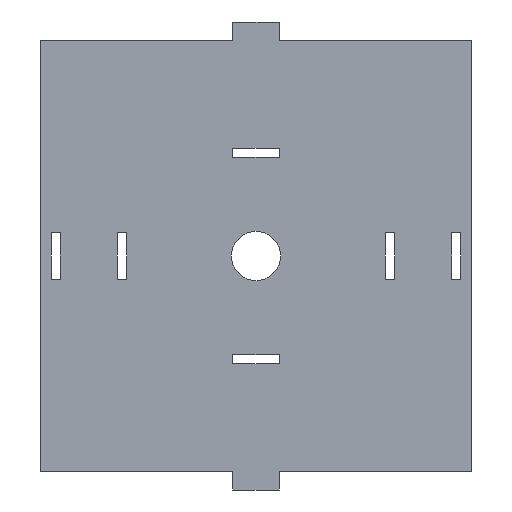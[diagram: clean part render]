
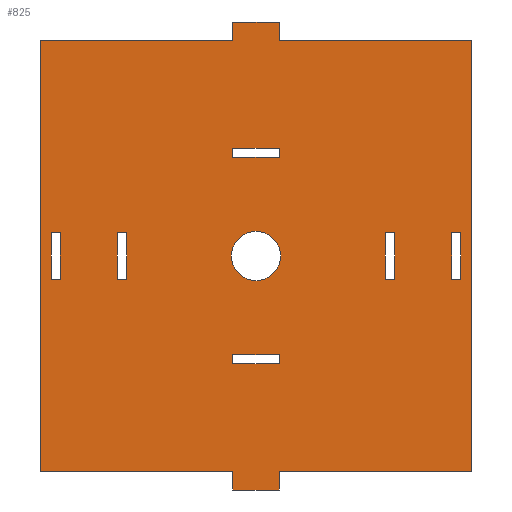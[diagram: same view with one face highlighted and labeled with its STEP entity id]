
A CAD part, front view. The second image highlights one B-rep face of the part: STEP entity #825.
In plain terms, the highlighted planar face has unit normal (0, -1, 0).
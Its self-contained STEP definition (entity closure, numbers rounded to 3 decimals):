
#22=FACE_BOUND('',#117,.T.);
#23=FACE_BOUND('',#118,.T.);
#24=FACE_BOUND('',#119,.T.);
#25=FACE_BOUND('',#120,.T.);
#26=FACE_BOUND('',#121,.T.);
#27=FACE_BOUND('',#122,.T.);
#28=FACE_BOUND('',#123,.T.);
#30=CIRCLE('',#866,8.);
#70=FACE_OUTER_BOUND('',#116,.T.);
#116=EDGE_LOOP('',(#712,#713,#714,#715,#716,#717,#718,#719,#720,#721,#722,
#723));
#117=EDGE_LOOP('',(#724,#725,#726,#727));
#118=EDGE_LOOP('',(#728,#729,#730,#731));
#119=EDGE_LOOP('',(#732,#733,#734,#735));
#120=EDGE_LOOP('',(#736,#737,#738,#739));
#121=EDGE_LOOP('',(#740,#741,#742,#743));
#122=EDGE_LOOP('',(#744,#745,#746,#747));
#123=EDGE_LOOP('',(#748));
#126=LINE('',#1082,#235);
#129=LINE('',#1088,#238);
#132=LINE('',#1094,#241);
#135=LINE('',#1098,#244);
#138=LINE('',#1106,#247);
#141=LINE('',#1112,#250);
#144=LINE('',#1118,#253);
#147=LINE('',#1122,#256);
#150=LINE('',#1130,#259);
#153=LINE('',#1136,#262);
#156=LINE('',#1142,#265);
#159=LINE('',#1146,#268);
#162=LINE('',#1154,#271);
#165=LINE('',#1160,#274);
#168=LINE('',#1166,#277);
#171=LINE('',#1170,#280);
#174=LINE('',#1178,#283);
#177=LINE('',#1184,#286);
#180=LINE('',#1190,#289);
#183=LINE('',#1194,#292);
#186=LINE('',#1202,#295);
#189=LINE('',#1208,#298);
#192=LINE('',#1214,#301);
#195=LINE('',#1218,#304);
#197=LINE('',#1228,#306);
#201=LINE('',#1236,#310);
#204=LINE('',#1242,#313);
#207=LINE('',#1248,#316);
#210=LINE('',#1254,#319);
#213=LINE('',#1260,#322);
#216=LINE('',#1266,#325);
#219=LINE('',#1272,#328);
#222=LINE('',#1278,#331);
#225=LINE('',#1284,#334);
#228=LINE('',#1290,#337);
#231=LINE('',#1295,#340);
#235=VECTOR('',#887,10.);
#238=VECTOR('',#892,10.);
#241=VECTOR('',#897,10.);
#244=VECTOR('',#902,10.);
#247=VECTOR('',#907,10.);
#250=VECTOR('',#912,10.);
#253=VECTOR('',#917,10.);
#256=VECTOR('',#922,10.);
#259=VECTOR('',#927,10.);
#262=VECTOR('',#932,10.);
#265=VECTOR('',#937,10.);
#268=VECTOR('',#942,10.);
#271=VECTOR('',#947,10.);
#274=VECTOR('',#952,10.);
#277=VECTOR('',#957,10.);
#280=VECTOR('',#962,10.);
#283=VECTOR('',#967,10.);
#286=VECTOR('',#972,10.);
#289=VECTOR('',#977,10.);
#292=VECTOR('',#982,10.);
#295=VECTOR('',#987,10.);
#298=VECTOR('',#992,10.);
#301=VECTOR('',#997,10.);
#304=VECTOR('',#1002,10.);
#306=VECTOR('',#1012,10.);
#310=VECTOR('',#1018,10.);
#313=VECTOR('',#1023,10.);
#316=VECTOR('',#1028,10.);
#319=VECTOR('',#1033,10.);
#322=VECTOR('',#1038,10.);
#325=VECTOR('',#1043,10.);
#328=VECTOR('',#1048,10.);
#331=VECTOR('',#1053,10.);
#334=VECTOR('',#1058,10.);
#337=VECTOR('',#1063,10.);
#340=VECTOR('',#1068,10.);
#344=VERTEX_POINT('',#1079);
#345=VERTEX_POINT('',#1081);
#347=VERTEX_POINT('',#1087);
#349=VERTEX_POINT('',#1093);
#352=VERTEX_POINT('',#1103);
#353=VERTEX_POINT('',#1105);
#355=VERTEX_POINT('',#1111);
#357=VERTEX_POINT('',#1117);
#360=VERTEX_POINT('',#1127);
#361=VERTEX_POINT('',#1129);
#363=VERTEX_POINT('',#1135);
#365=VERTEX_POINT('',#1141);
#368=VERTEX_POINT('',#1151);
#369=VERTEX_POINT('',#1153);
#371=VERTEX_POINT('',#1159);
#373=VERTEX_POINT('',#1165);
#376=VERTEX_POINT('',#1175);
#377=VERTEX_POINT('',#1177);
#379=VERTEX_POINT('',#1183);
#381=VERTEX_POINT('',#1189);
#384=VERTEX_POINT('',#1199);
#385=VERTEX_POINT('',#1201);
#387=VERTEX_POINT('',#1207);
#389=VERTEX_POINT('',#1213);
#391=VERTEX_POINT('',#1222);
#392=VERTEX_POINT('',#1226);
#393=VERTEX_POINT('',#1227);
#396=VERTEX_POINT('',#1235);
#398=VERTEX_POINT('',#1241);
#400=VERTEX_POINT('',#1247);
#402=VERTEX_POINT('',#1253);
#404=VERTEX_POINT('',#1259);
#406=VERTEX_POINT('',#1265);
#408=VERTEX_POINT('',#1271);
#410=VERTEX_POINT('',#1277);
#412=VERTEX_POINT('',#1283);
#414=VERTEX_POINT('',#1289);
#418=EDGE_CURVE('',#345,#344,#126,.T.);
#421=EDGE_CURVE('',#347,#345,#129,.T.);
#424=EDGE_CURVE('',#349,#347,#132,.T.);
#427=EDGE_CURVE('',#344,#349,#135,.T.);
#430=EDGE_CURVE('',#353,#352,#138,.T.);
#433=EDGE_CURVE('',#355,#353,#141,.T.);
#436=EDGE_CURVE('',#357,#355,#144,.T.);
#439=EDGE_CURVE('',#352,#357,#147,.T.);
#442=EDGE_CURVE('',#361,#360,#150,.T.);
#445=EDGE_CURVE('',#363,#361,#153,.T.);
#448=EDGE_CURVE('',#365,#363,#156,.T.);
#451=EDGE_CURVE('',#360,#365,#159,.T.);
#454=EDGE_CURVE('',#369,#368,#162,.T.);
#457=EDGE_CURVE('',#371,#369,#165,.T.);
#460=EDGE_CURVE('',#373,#371,#168,.T.);
#463=EDGE_CURVE('',#368,#373,#171,.T.);
#466=EDGE_CURVE('',#377,#376,#174,.T.);
#469=EDGE_CURVE('',#379,#377,#177,.T.);
#472=EDGE_CURVE('',#381,#379,#180,.T.);
#475=EDGE_CURVE('',#376,#381,#183,.T.);
#478=EDGE_CURVE('',#385,#384,#186,.T.);
#481=EDGE_CURVE('',#387,#385,#189,.T.);
#484=EDGE_CURVE('',#389,#387,#192,.T.);
#487=EDGE_CURVE('',#384,#389,#195,.T.);
#490=EDGE_CURVE('',#391,#391,#30,.T.);
#491=EDGE_CURVE('',#392,#393,#197,.T.);
#495=EDGE_CURVE('',#393,#396,#201,.T.);
#498=EDGE_CURVE('',#396,#398,#204,.T.);
#501=EDGE_CURVE('',#398,#400,#207,.T.);
#504=EDGE_CURVE('',#400,#402,#210,.T.);
#507=EDGE_CURVE('',#404,#402,#213,.T.);
#510=EDGE_CURVE('',#406,#404,#216,.T.);
#513=EDGE_CURVE('',#408,#406,#219,.T.);
#516=EDGE_CURVE('',#410,#408,#222,.T.);
#519=EDGE_CURVE('',#412,#410,#225,.T.);
#522=EDGE_CURVE('',#414,#412,#228,.T.);
#525=EDGE_CURVE('',#392,#414,#231,.T.);
#712=ORIENTED_EDGE('',*,*,#525,.F.);
#713=ORIENTED_EDGE('',*,*,#491,.T.);
#714=ORIENTED_EDGE('',*,*,#495,.T.);
#715=ORIENTED_EDGE('',*,*,#498,.T.);
#716=ORIENTED_EDGE('',*,*,#501,.T.);
#717=ORIENTED_EDGE('',*,*,#504,.T.);
#718=ORIENTED_EDGE('',*,*,#507,.F.);
#719=ORIENTED_EDGE('',*,*,#510,.F.);
#720=ORIENTED_EDGE('',*,*,#513,.F.);
#721=ORIENTED_EDGE('',*,*,#516,.F.);
#722=ORIENTED_EDGE('',*,*,#519,.F.);
#723=ORIENTED_EDGE('',*,*,#522,.F.);
#724=ORIENTED_EDGE('',*,*,#424,.T.);
#725=ORIENTED_EDGE('',*,*,#421,.T.);
#726=ORIENTED_EDGE('',*,*,#418,.T.);
#727=ORIENTED_EDGE('',*,*,#427,.T.);
#728=ORIENTED_EDGE('',*,*,#436,.T.);
#729=ORIENTED_EDGE('',*,*,#433,.T.);
#730=ORIENTED_EDGE('',*,*,#430,.T.);
#731=ORIENTED_EDGE('',*,*,#439,.T.);
#732=ORIENTED_EDGE('',*,*,#448,.T.);
#733=ORIENTED_EDGE('',*,*,#445,.T.);
#734=ORIENTED_EDGE('',*,*,#442,.T.);
#735=ORIENTED_EDGE('',*,*,#451,.T.);
#736=ORIENTED_EDGE('',*,*,#460,.T.);
#737=ORIENTED_EDGE('',*,*,#457,.T.);
#738=ORIENTED_EDGE('',*,*,#454,.T.);
#739=ORIENTED_EDGE('',*,*,#463,.T.);
#740=ORIENTED_EDGE('',*,*,#472,.T.);
#741=ORIENTED_EDGE('',*,*,#469,.T.);
#742=ORIENTED_EDGE('',*,*,#466,.T.);
#743=ORIENTED_EDGE('',*,*,#475,.T.);
#744=ORIENTED_EDGE('',*,*,#484,.T.);
#745=ORIENTED_EDGE('',*,*,#481,.T.);
#746=ORIENTED_EDGE('',*,*,#478,.T.);
#747=ORIENTED_EDGE('',*,*,#487,.T.);
#748=ORIENTED_EDGE('',*,*,#490,.F.);
#786=PLANE('',#880);
#825=ADVANCED_FACE('',(#70,#22,#23,#24,#25,#26,#27,#28),#786,.F.);
#866=AXIS2_PLACEMENT_3D('',#1224,#1008,#1009);
#880=AXIS2_PLACEMENT_3D('',#1298,#1072,#1073);
#887=DIRECTION('',(1.,0.,0.));
#892=DIRECTION('',(0.,0.,1.));
#897=DIRECTION('',(-1.,0.,0.));
#902=DIRECTION('',(0.,0.,-1.));
#907=DIRECTION('',(1.,0.,0.));
#912=DIRECTION('',(0.,0.,1.));
#917=DIRECTION('',(-1.,0.,0.));
#922=DIRECTION('',(0.,0.,-1.));
#927=DIRECTION('',(1.,0.,0.));
#932=DIRECTION('',(0.,0.,1.));
#937=DIRECTION('',(-1.,0.,0.));
#942=DIRECTION('',(0.,0.,-1.));
#947=DIRECTION('',(1.,0.,0.));
#952=DIRECTION('',(0.,0.,1.));
#957=DIRECTION('',(-1.,0.,0.));
#962=DIRECTION('',(0.,0.,-1.));
#967=DIRECTION('',(1.,0.,0.));
#972=DIRECTION('',(0.,0.,1.));
#977=DIRECTION('',(-1.,0.,0.));
#982=DIRECTION('',(0.,0.,-1.));
#987=DIRECTION('',(1.,0.,0.));
#992=DIRECTION('',(0.,0.,1.));
#997=DIRECTION('',(-1.,0.,0.));
#1002=DIRECTION('',(0.,0.,-1.));
#1008=DIRECTION('center_axis',(0.,-1.,0.));
#1009=DIRECTION('ref_axis',(1.,0.,0.));
#1012=DIRECTION('',(1.,0.,0.));
#1018=DIRECTION('',(0.,0.,-1.));
#1023=DIRECTION('',(1.,0.,0.));
#1028=DIRECTION('',(0.,0.,1.));
#1033=DIRECTION('',(1.,0.,0.));
#1038=DIRECTION('',(0.,0.,-1.));
#1043=DIRECTION('',(1.,0.,0.));
#1048=DIRECTION('',(0.,0.,-1.));
#1053=DIRECTION('',(1.,0.,0.));
#1058=DIRECTION('',(0.,0.,1.));
#1063=DIRECTION('',(1.,0.,0.));
#1068=DIRECTION('',(0.,0.,1.));
#1072=DIRECTION('center_axis',(0.,1.,0.));
#1073=DIRECTION('ref_axis',(1.,0.,0.));
#1079=CARTESIAN_POINT('',(45.,0.,7.5));
#1081=CARTESIAN_POINT('',(42.,0.,7.5));
#1082=CARTESIAN_POINT('',(21.,0.,7.5));
#1087=CARTESIAN_POINT('',(42.,0.,-7.5));
#1088=CARTESIAN_POINT('',(42.,0.,-3.75));
#1093=CARTESIAN_POINT('',(45.,0.,-7.5));
#1094=CARTESIAN_POINT('',(22.5,0.,-7.5));
#1098=CARTESIAN_POINT('',(45.,0.,3.75));
#1103=CARTESIAN_POINT('',(7.5,0.,35.));
#1105=CARTESIAN_POINT('',(-7.5,0.,35.));
#1106=CARTESIAN_POINT('',(-3.75,0.,35.));
#1111=CARTESIAN_POINT('',(-7.5,0.,32.));
#1112=CARTESIAN_POINT('',(-7.5,0.,16.));
#1117=CARTESIAN_POINT('',(7.5,0.,32.));
#1118=CARTESIAN_POINT('',(3.75,0.,32.));
#1122=CARTESIAN_POINT('',(7.5,0.,17.5));
#1127=CARTESIAN_POINT('',(-42.,0.,7.5));
#1129=CARTESIAN_POINT('',(-45.,0.,7.5));
#1130=CARTESIAN_POINT('',(-22.5,0.,7.5));
#1135=CARTESIAN_POINT('',(-45.,0.,-7.5));
#1136=CARTESIAN_POINT('',(-45.,0.,-3.75));
#1141=CARTESIAN_POINT('',(-42.,0.,-7.5));
#1142=CARTESIAN_POINT('',(-21.,0.,-7.5));
#1146=CARTESIAN_POINT('',(-42.,0.,3.75));
#1151=CARTESIAN_POINT('',(7.5,0.,-32.));
#1153=CARTESIAN_POINT('',(-7.5,0.,-32.));
#1154=CARTESIAN_POINT('',(-3.75,0.,-32.));
#1159=CARTESIAN_POINT('',(-7.5,0.,-35.));
#1160=CARTESIAN_POINT('',(-7.5,0.,-17.5));
#1165=CARTESIAN_POINT('',(7.5,0.,-35.));
#1166=CARTESIAN_POINT('',(3.75,0.,-35.));
#1170=CARTESIAN_POINT('',(7.5,0.,-16.));
#1175=CARTESIAN_POINT('',(66.5,0.,7.5));
#1177=CARTESIAN_POINT('',(63.5,0.,7.5));
#1178=CARTESIAN_POINT('',(33.25,0.,7.5));
#1183=CARTESIAN_POINT('',(63.5,0.,-7.5));
#1184=CARTESIAN_POINT('',(63.5,0.,3.75));
#1189=CARTESIAN_POINT('',(66.5,0.,-7.5));
#1190=CARTESIAN_POINT('',(31.75,0.,-7.5));
#1194=CARTESIAN_POINT('',(66.5,0.,-3.75));
#1199=CARTESIAN_POINT('',(-63.5,0.,7.5));
#1201=CARTESIAN_POINT('',(-66.5,0.,7.5));
#1202=CARTESIAN_POINT('',(-33.25,0.,7.5));
#1207=CARTESIAN_POINT('',(-66.5,0.,-7.5));
#1208=CARTESIAN_POINT('',(-66.5,0.,-3.75));
#1213=CARTESIAN_POINT('',(-63.5,0.,-7.5));
#1214=CARTESIAN_POINT('',(-31.75,0.,-7.5));
#1218=CARTESIAN_POINT('',(-63.5,0.,3.75));
#1222=CARTESIAN_POINT('',(-8.,0.,0.));
#1224=CARTESIAN_POINT('Origin',(0.,0.,0.));
#1226=CARTESIAN_POINT('',(-70.,0.,-70.));
#1227=CARTESIAN_POINT('',(-7.5,0.,-70.));
#1228=CARTESIAN_POINT('',(-70.,0.,-70.));
#1235=CARTESIAN_POINT('',(-7.5,0.,-76.));
#1236=CARTESIAN_POINT('',(-7.5,0.,-70.));
#1241=CARTESIAN_POINT('',(7.5,0.,-76.));
#1242=CARTESIAN_POINT('',(-7.5,0.,-76.));
#1247=CARTESIAN_POINT('',(7.5,0.,-70.));
#1248=CARTESIAN_POINT('',(7.5,0.,-76.));
#1253=CARTESIAN_POINT('',(70.,0.,-70.));
#1254=CARTESIAN_POINT('',(7.5,0.,-70.));
#1259=CARTESIAN_POINT('',(70.,0.,70.));
#1260=CARTESIAN_POINT('',(70.,0.,70.));
#1265=CARTESIAN_POINT('',(7.5,0.,70.));
#1266=CARTESIAN_POINT('',(7.5,0.,70.));
#1271=CARTESIAN_POINT('',(7.5,0.,76.));
#1272=CARTESIAN_POINT('',(7.5,0.,76.));
#1277=CARTESIAN_POINT('',(-7.5,0.,76.));
#1278=CARTESIAN_POINT('',(-7.5,0.,76.));
#1283=CARTESIAN_POINT('',(-7.5,0.,70.));
#1284=CARTESIAN_POINT('',(-7.5,0.,70.));
#1289=CARTESIAN_POINT('',(-70.,0.,70.));
#1290=CARTESIAN_POINT('',(-70.,0.,70.));
#1295=CARTESIAN_POINT('',(-70.,0.,-70.));
#1298=CARTESIAN_POINT('Origin',(0.,0.,0.));
